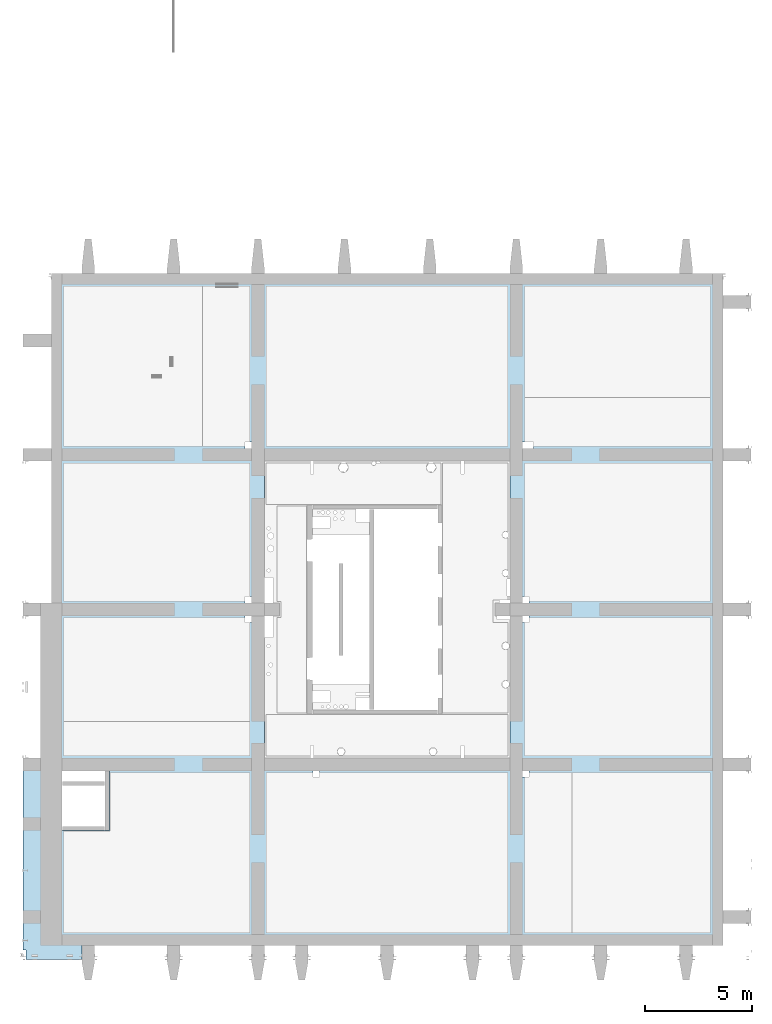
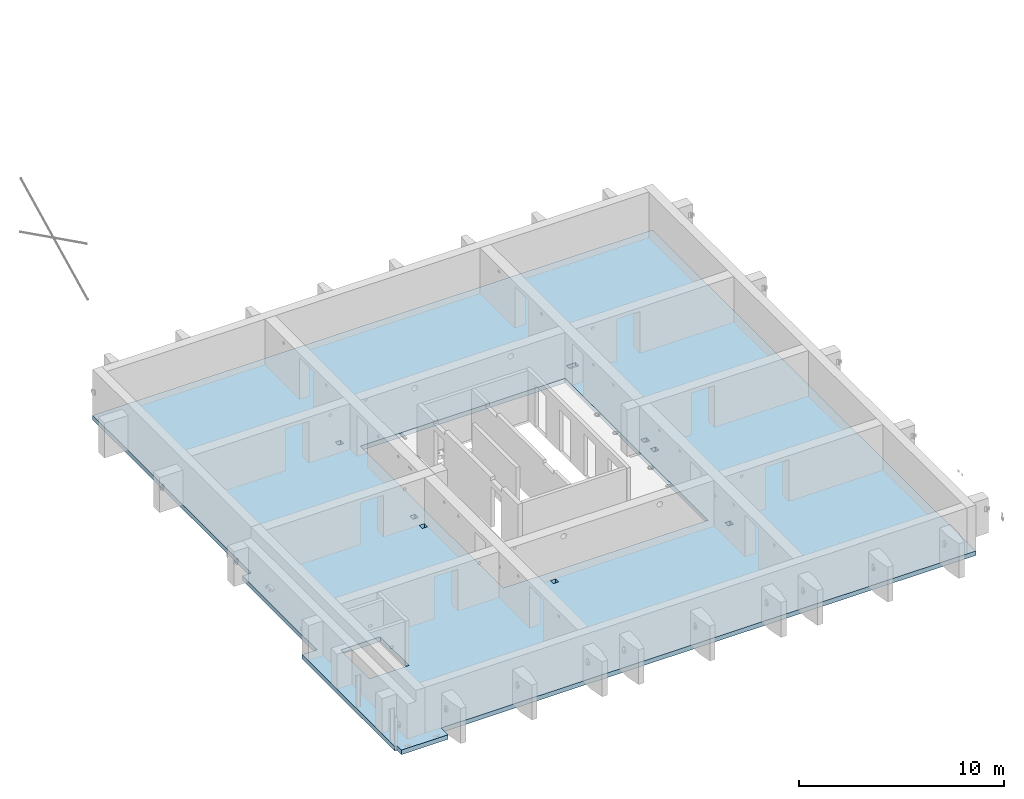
# One storey, part 21 of 22: 1 slab.
"""IFC2X3 building model written with IfcOpenShell, lengths in millimetres."""

import ifcopenshell
import ifcopenshell.guid

model = None  # the IFC model being written
_history = None  # IfcOwnerHistory: only IFC2X3 demands one
_inside = {}  # id of a spatial element -> (the spatial element, [elements in it])
_under = {}  # id of a project, library or spatial element -> (it, [spatial elements below it])
_declared = {}  # id of a project -> (the project, [libraries it declares])
_typed = {}  # id of a type object -> (the type object, [elements of that type])
_made_of = {}  # id of a material, layer set ... -> (it, [elements and type objects made of it])


def new_model(schema):
    """Start an empty IFC model of exactly this schema.

    Asked for "IFC4X3", IfcOpenShell would pick the latest addendum, in which some entities
    have other attributes; the version numbers below select the first issue.
    IFC2X3 requires an IfcOwnerHistory on every rooted entity: one is made here for all.
    """
    global model, _history
    if schema == "IFC4X3":
        model = ifcopenshell.file(schema_version=(4, 3, 0, 0))
    else:
        model = ifcopenshell.file(schema=schema)
    _inside.clear()
    _under.clear()
    _declared.clear()
    _typed.clear()
    _made_of.clear()
    _history = None
    if model.schema == "IFC2X3":
        org = make("IfcOrganization", Name="unknown")
        user = make(
            "IfcPersonAndOrganization",
            ThePerson=make("IfcPerson", FamilyName="unknown"),
            TheOrganization=org,
        )
        app = make(
            "IfcApplication",
            ApplicationDeveloper=org,
            Version="unknown",
            ApplicationFullName="unknown",
            ApplicationIdentifier="unknown",
        )
        _history = make(
            "IfcOwnerHistory",
            OwningUser=user,
            OwningApplication=app,
            ChangeAction="ADDED",
            CreationDate=0,
        )
    return model


def make(cls, **values):
    """One entity of the class cls with the attributes given. An attribute that is None is left unset."""
    return model.create_entity(
        cls, **{name: value for name, value in values.items() if value is not None}
    )


def entity(cls, *values):
    """Any entity or typed value of the class cls, its attributes in the order of the schema. None: left unset."""
    e = model.create_entity(cls)
    for i, value in enumerate(values):
        if value is not None:
            e[i] = value
    return e


def rooted(cls, **values):
    """An entity with a GlobalId (a new one), such as an element, a storey or a relation."""
    return make(cls, GlobalId=ifcopenshell.guid.new(), OwnerHistory=_history, **values)


def si_unit(unit_type, name, prefix=None):
    """IfcSIUnit, for example si_unit("LENGTHUNIT", "METRE", prefix="MILLI")."""
    return make("IfcSIUnit", UnitType=unit_type, Prefix=prefix, Name=name)


def converted_unit(unit_type, name, factor, base, dimensions=None, offset=None):
    """IfcConversionBasedUnit, such as the inch: factor (a typed value) times the base unit."""
    return make(
        "IfcConversionBasedUnit"
        if offset is None
        else "IfcConversionBasedUnitWithOffset",
        ConversionOffset=offset,
        Dimensions=None
        if dimensions is None
        else entity("IfcDimensionalExponents", *dimensions),
        UnitType=unit_type,
        Name=name,
        ConversionFactor=make(
            "IfcMeasureWithUnit", ValueComponent=factor, UnitComponent=base
        ),
    )


def derived_unit(unit_type, elements):
    """IfcDerivedUnit: a product of units, each with its exponent."""
    return make(
        "IfcDerivedUnit",
        Elements=[
            make("IfcDerivedUnitElement", Unit=unit, Exponent=power)
            for unit, power in elements
        ],
        UnitType=unit_type,
    )


def assignment(units):
    """IfcUnitAssignment: the units of a project."""
    return None if units is None else make("IfcUnitAssignment", Units=units)


def point(xyz):
    """IfcCartesianPoint."""
    return None if xyz is None else make("IfcCartesianPoint", Coordinates=xyz)


def direction(xyz):
    """IfcDirection."""
    return None if xyz is None else make("IfcDirection", DirectionRatios=xyz)


def frame(location, z_axis=None, x_axis=None):
    """IfcAxis2Placement3D, a coordinate frame: its origin and axes. An axis left out is left unset."""
    return make(
        "IfcAxis2Placement3D",
        Location=point(location),
        Axis=direction(z_axis),
        RefDirection=direction(x_axis),
    )


def frame_2d(location, x_axis=None):
    """IfcAxis2Placement2D, a coordinate frame in the plane: its origin and x axis."""
    return make(
        "IfcAxis2Placement2D", Location=point(location), RefDirection=direction(x_axis)
    )


def origin():
    """The frame at (0, 0, 0) with its axes left unset."""
    return frame((0.0, 0.0, 0.0))


def origin_2d_with_axis():
    """The frame at (0, 0) in the plane with the x axis (1, 0) written out."""
    return frame_2d((0.0, 0.0), x_axis=(1.0, 0.0))


def place(relative_to, where):
    """IfcLocalPlacement: puts the frame where relative to a parent placement (None: the world)."""
    return make(
        "IfcLocalPlacement", PlacementRelTo=relative_to, RelativePlacement=where
    )


def context(
    kind, dimensions, precision=None, world=None, true_north=None, identifier=None
):
    """IfcGeometricRepresentationContext, for example the 3D "Model" context."""
    return make(
        "IfcGeometricRepresentationContext",
        ContextIdentifier=identifier,
        ContextType=kind,
        CoordinateSpaceDimension=dimensions,
        Precision=precision,
        WorldCoordinateSystem=world,
        TrueNorth=true_north,
    )


def subcontext(parent, identifier, kind, view, scale=None):
    """IfcGeometricRepresentationSubContext, for example "Body" below "Model"."""
    return make(
        "IfcGeometricRepresentationSubContext",
        ContextIdentifier=identifier,
        ContextType=kind,
        ParentContext=parent,
        TargetScale=scale,
        TargetView=view,
    )


def project(units=None, contexts=None):
    """IfcProject with its units and contexts."""
    return rooted(
        "IfcProject",
        Name="project",
        RepresentationContexts=contexts,
        UnitsInContext=assignment(units),
    )


def spatial(cls, under=None, at=None, **own):
    """A site, building, storey or space (cls), placed at a placement, below another one or the project."""
    s = rooted(cls, ObjectPlacement=at, **own)
    if under is not None:
        _under.setdefault(under.id(), (under, []))[1].append(s)
    return s


def profile(cls, at=None, kind="AREA", **sizes):
    """A parametric profile (cls). Its sizes go by their IFC names, for example OverallWidth=200.0."""
    return make(cls, ProfileType=kind, Position=at, **sizes)


def rectangle(**sizes):
    """IfcRectangleProfileDef."""
    return profile("IfcRectangleProfileDef", **sizes)


def extrude(swept, where, along, depth):
    """IfcExtrudedAreaSolid: the profile swept, set in the frame where, extruded along a direction by depth."""
    return make(
        "IfcExtrudedAreaSolid",
        SweptArea=swept,
        Position=where,
        ExtrudedDirection=direction(along),
        Depth=depth,
    )


def faces_of(points, faces, orient=None, outer=None):
    """IfcFace entities. A face is a list of loops; a loop is a list of indices into points, from 0.

    orient and outer hold one flag for each loop. By default every Orientation is true, the
    first loop of a face is its IfcFaceOuterBound and the others are IfcFaceBound.
    """
    made = []
    for i, loops in enumerate(faces):
        bounds = []
        for j, loop in enumerate(loops):
            is_outer = j == 0 if outer is None else outer[i][j]
            bounds.append(
                make(
                    "IfcFaceOuterBound" if is_outer else "IfcFaceBound",
                    Bound=make("IfcPolyLoop", Polygon=[points[k] for k in loop]),
                    Orientation=True if orient is None else orient[i][j],
                )
            )
        made.append(make("IfcFace", Bounds=bounds))
    return made


def faceted_brep(points, faces, orient=None, outer=None, voids=None):
    """IfcFacetedBrep: a solid bounded by flat faces; with voids (closed shells), ...WithVoids."""
    shared = [point(p) for p in points]
    hull = make("IfcClosedShell", CfsFaces=faces_of(shared, faces, orient, outer))
    if voids is None:
        return make("IfcFacetedBrep", Outer=hull)
    return make(
        "IfcFacetedBrepWithVoids",
        Outer=hull,
        Voids=[
            make(cls, CfsFaces=faces_of(shared, fs, o, b)) for cls, fs, o, b in voids
        ],
    )


def shape(context_of_items, identifier, shape_type, items):
    """IfcShapeRepresentation: the items that make up one representation, for example the "Body"."""
    return make(
        "IfcShapeRepresentation",
        ContextOfItems=context_of_items,
        RepresentationIdentifier=identifier,
        RepresentationType=shape_type,
        Items=items,
    )


def material(Name=None, Category=None):
    """IfcMaterial."""
    return make("IfcMaterial", Name=Name, Category=Category)


def made_of(thing, what):
    """Note that an element or type object is made of a material, layer set ...; save() writes the relation."""
    if what is not None:
        _made_of.setdefault(what.id(), (what, []))[1].append(thing)
    return thing


def element(
    cls,
    number,
    at=None,
    inside=None,
    cuts=None,
    type_object=None,
    material=None,
    context=None,
    identifier="Body",
    shape_type=None,
    held_by="IfcProductDefinitionShape",
    body=None,
    shapes=None,
    **own,
):
    """One element of the class cls, such as IfcWall. Its Tag is "e" and its number.

    at: its placement. inside: the storey or other place that contains it. cuts: it is an
    opening in that element (IfcRelVoidsElement). A single representation is given by context,
    identifier, shape_type and body (its items); several are given by shapes. held_by: the class
    of the entity that holds the representations. save() writes the other relations.
    """
    e = rooted(cls, Tag="e%d" % number, ObjectPlacement=at, **own)
    if body is not None:
        shapes = [shape(context, identifier, shape_type, body)]
    if shapes is not None:
        e.Representation = make(held_by, Representations=shapes)
    if inside is not None:
        _inside.setdefault(inside.id(), (inside, []))[1].append(e)
    if cuts is not None:
        rooted(
            "IfcRelVoidsElement", RelatingBuildingElement=cuts, RelatedOpeningElement=e
        )
    if type_object is not None:
        _typed.setdefault(type_object.id(), (type_object, []))[1].append(e)
    return made_of(e, material)


def aggregate(whole, parts):
    """IfcRelAggregates: a whole, such as a stair, and the parts it consists of."""
    return rooted("IfcRelAggregates", RelatingObject=whole, RelatedObjects=parts)


def save(model, path):
    """Write the relations noted so far, then the file.

    IfcRelAggregates (storeys below a building ...), IfcRelContainedInSpatialStructure (elements
    in a storey), IfcRelDefinesByType, IfcRelAssociatesMaterial and IfcRelDeclares: one each for
    every whole, place, type object, material and project.
    """
    for whole, parts in _under.values():
        aggregate(whole, parts)
    for where, things in _inside.values():
        rooted(
            "IfcRelContainedInSpatialStructure",
            RelatedElements=things,
            RelatingStructure=where,
        )
    for kind, things in _typed.values():
        rooted("IfcRelDefinesByType", RelatedObjects=things, RelatingType=kind)
    for what, things in _made_of.values():
        rooted("IfcRelAssociatesMaterial", RelatedObjects=things, RelatingMaterial=what)
    for by, libraries in _declared.values():
        rooted("IfcRelDeclares", RelatingContext=by, RelatedDefinitions=libraries)
    model.write(path)


model = new_model("IFC2X3")

# Units and contexts
model_context = context("Model", 3, precision=0.01, world=origin(), true_north=direction((6.12303176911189e-17, 1.0)))
body_context = subcontext(model_context, "Body", "Model", "MODEL_VIEW")
ifc_project = project(units=[si_unit("LENGTHUNIT", "METRE", prefix="MILLI"), si_unit("AREAUNIT", "SQUARE_METRE"), si_unit("VOLUMEUNIT", "CUBIC_METRE"), converted_unit("PLANEANGLEUNIT", "DEGREE", entity("IfcRatioMeasure", 0.0174532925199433), si_unit("PLANEANGLEUNIT", "RADIAN"), dimensions=[0, 0, 0, 0, 0, 0, 0]), si_unit("MASSUNIT", "GRAM", prefix="KILO"), derived_unit("MASSDENSITYUNIT", [(si_unit("MASSUNIT", "GRAM", prefix="KILO"), 1), (si_unit("LENGTHUNIT", "METRE"), -3)]), si_unit("TIMEUNIT", "SECOND"), si_unit("FREQUENCYUNIT", "HERTZ"), si_unit("THERMODYNAMICTEMPERATUREUNIT", "DEGREE_CELSIUS"), derived_unit("THERMALTRANSMITTANCEUNIT", [(si_unit("MASSUNIT", "GRAM", prefix="KILO"), 1), (si_unit("THERMODYNAMICTEMPERATUREUNIT", "KELVIN"), -1), (si_unit("TIMEUNIT", "SECOND"), -3)]), derived_unit("VOLUMETRICFLOWRATEUNIT", [(si_unit("LENGTHUNIT", "METRE"), 3), (si_unit("TIMEUNIT", "SECOND"), -1)]), si_unit("ELECTRICCURRENTUNIT", "AMPERE"), si_unit("ELECTRICVOLTAGEUNIT", "VOLT"), si_unit("POWERUNIT", "WATT"), si_unit("FORCEUNIT", "NEWTON", prefix="KILO"), si_unit("ILLUMINANCEUNIT", "LUX"), si_unit("LUMINOUSFLUXUNIT", "LUMEN"), si_unit("LUMINOUSINTENSITYUNIT", "CANDELA"), derived_unit("USERDEFINED", [(si_unit("MASSUNIT", "GRAM", prefix="KILO"), -1), (si_unit("LENGTHUNIT", "METRE"), -2), (si_unit("TIMEUNIT", "SECOND"), 3), (si_unit("LUMINOUSFLUXUNIT", "LUMEN"), 1)]), derived_unit("LINEARVELOCITYUNIT", [(si_unit("LENGTHUNIT", "METRE"), 1), (si_unit("TIMEUNIT", "SECOND"), -1)]), si_unit("PRESSUREUNIT", "PASCAL"), derived_unit("USERDEFINED", [(si_unit("LENGTHUNIT", "METRE"), -2), (si_unit("MASSUNIT", "GRAM", prefix="KILO"), 1), (si_unit("TIMEUNIT", "SECOND"), -2)])], contexts=[model_context])

# Site, building, storey
site_placement = place(None, origin())
site = spatial("IfcSite", under=ifc_project, at=site_placement, Name="Default", CompositionType="ELEMENT")
building_placement = place(site_placement, origin())
building = spatial("IfcBuilding", under=site, at=building_placement, Name="niet gebruiken", CompositionType="ELEMENT")
storey_placement = place(building_placement, frame((0.0, 0.0, 15000.0)))
storey = spatial("IfcBuildingStorey", under=building, at=storey_placement, Name="04 vierde verdieping", CompositionType="ELEMENT", Elevation=15000.0)

# Slab
ifc_material = material(Name="NLRS_f2_beton ihwg")
slab_placement = place(storey_placement, origin())
element("IfcSlab", 1, at=slab_placement, inside=storey, material=ifc_material, Name="Floor:NLRS_23.21_FL_beton breedplaat d=70/270_gen", ObjectType="Floor:NLRS_23.21_FL_beton breedplaat d=70/270_gen", PredefinedType="FLOOR", context=body_context, shape_type="SolidModel", body=[
    extrude(rectangle(XDim=269.999999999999, YDim=1200.0, at=origin_2d_with_axis()), frame((147800.0, 30485.0, -260.0), z_axis=(0.0, 0.0, 1.0), x_axis=(0.0, -1.0, 0.0)), (0.0, 0.0, 1.0), 100.000000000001),
    extrude(rectangle(XDim=270.000000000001, YDim=1200.0, at=frame_2d((-5.40012479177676e-13, 0.0), x_axis=(1.0, 0.0))), frame((147800.0, 4515.0, -260.0), z_axis=(0.0, 0.0, 1.0), x_axis=(0.0, -1.0, 0.0)), (0.0, 0.0, 1.0), 100.000000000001),
    faceted_brep([(136080.0, 25130.0, -360.0), (147420.0, 25130.0, -360.0), (147420.0, 32650.0, -360.0), (136080.0, 32650.0, -360.0), (126600.0, 2350.0, -360.0), (135320.0, 2350.0, -360.0), (135320.0, 9870.0, -360.0), (128760.0, 9870.0, -360.0), (128760.0, 7130.0, -360.0), (126600.0, 7130.0, -360.0), (157480.0, 1770.0, -360.0), (156980.0, 1770.0, -360.0), (127450.0, 1770.0, -360.0), (127450.0, 1114.0, -360.0), (124830.0, 1114.0, -360.0), (124830.0, 1550.0, -360.0), (124700.0, 1550.0, -360.0), (124700.0, 2800.0, -360.0), (124700.0, 3400.0, -360.0), (124700.0, 7150.0, -360.0), (124700.0, 7750.0, -360.0), (124700.0, 9950.0, -360.0), (124700.0, 10550.0, -360.0), (125520.0, 10550.0, -360.0), (125520.0, 17800.0, -360.0), (126020.0, 17800.0, -360.0), (126020.0, 33230.0, -360.0), (126520.0, 33230.0, -360.0), (156980.0, 33230.0, -360.0), (157480.0, 33230.0, -360.0), (128740.0, 9950.0, -360.0), (126520.0, 9950.0, -360.0), (126520.0, 7150.0, -360.0), (128740.0, 7150.0, -360.0), (147500.0, 24450.0, -360.0), (136000.0, 24450.0, -360.0), (136000.0, 17800.0, -360.0), (136000.0, 17200.0, -360.0), (136000.0, 10550.0, -360.0), (147500.0, 10550.0, -360.0), (147500.0, 17200.0, -360.0), (147500.0, 17800.0, -360.0), (148100.0, 18100.0, -360.0), (148100.0, 17800.0, -360.0), (148400.0, 17800.0, -360.0), (148400.0, 17880.0, -360.0), (156900.0, 17880.0, -360.0), (156900.0, 24370.0, -360.0), (148180.0, 24370.0, -360.0), (148180.0, 18100.0, -360.0), (138585.0, 9950.0, -360.0), (138285.0, 9950.0, -360.0), (138285.0, 9870.0, -360.0), (136080.0, 9870.0, -360.0), (136080.0, 2350.0, -360.0), (147420.0, 2350.0, -360.0), (147420.0, 9870.0, -360.0), (138585.0, 9870.0, -360.0), (148400.0, 9950.0, -360.0), (148100.0, 9950.0, -360.0), (148100.0, 9650.0, -360.0), (148180.0, 9650.0, -360.0), (148180.0, 2350.0, -360.0), (150400.0, 2350.0, -360.0), (156900.0, 2350.0, -360.0), (156900.0, 9870.0, -360.0), (150400.0, 9870.0, -360.0), (148400.0, 9870.0, -360.0), (135400.0, 25050.0, -360.0), (135400.0, 25350.0, -360.0), (135320.0, 25350.0, -360.0), (135320.0, 32650.0, -360.0), (133100.0, 32650.0, -360.0), (126600.0, 32650.0, -360.0), (126600.0, 25130.0, -360.0), (133100.0, 25130.0, -360.0), (135100.0, 25130.0, -360.0), (135100.0, 25050.0, -360.0), (135400.0, 17800.0, -360.0), (135400.0, 18100.0, -360.0), (135320.0, 18100.0, -360.0), (135320.0, 24370.0, -360.0), (126600.0, 24370.0, -360.0), (126600.0, 17880.0, -360.0), (135100.0, 17880.0, -360.0), (135100.0, 17800.0, -360.0), (135400.0, 16900.0, -360.0), (135400.0, 17200.0, -360.0), (135100.0, 17200.0, -360.0), (135100.0, 17120.0, -360.0), (126600.0, 17120.0, -360.0), (126600.0, 12266.0, -360.0), (126600.0, 10630.0, -360.0), (135320.0, 10630.0, -360.0), (135320.0, 12266.0, -360.0), (135320.0, 16900.0, -360.0), (148400.0, 17200.0, -360.0), (148100.0, 17200.0, -360.0), (148100.0, 16900.0, -360.0), (148180.0, 16900.0, -360.0), (148180.0, 10630.0, -360.0), (156900.0, 10630.0, -360.0), (156900.0, 17120.0, -360.0), (148400.0, 17120.0, -360.0), (148100.0, 25050.0, -360.0), (148600.0, 25050.0, -360.0), (148600.0, 25130.0, -360.0), (156900.0, 25130.0, -360.0), (156900.0, 27440.0, -360.0), (156900.0, 32650.0, -360.0), (148180.0, 32650.0, -360.0), (148180.0, 27440.0, -360.0), (148180.0, 25350.0, -360.0), (148100.0, 25350.0, -360.0), (148400.0, 9950.0, -90.0), (148400.0, 9650.0, -90.0), (148100.0, 9650.0, -90.0), (148100.0, 9950.0, -90.0), (148400.0, 17200.0, -90.0), (148400.0, 16900.0, -90.0), (148100.0, 16900.0, -90.0), (148100.0, 17200.0, -90.0), (148400.0, 18100.0, -90.0), (148400.0, 17800.0, -90.0), (148100.0, 17800.0, -90.0), (148100.0, 18100.0, -90.0), (127450.0, 1770.0, -90.0), (128050.0, 1770.0, -90.0), (131450.0, 1770.0, -90.0), (132050.0, 1770.0, -90.0), (135400.0, 1770.0, -90.0), (136000.0, 1770.0, -90.0), (137450.0, 1770.0, -90.0), (138050.0, 1770.0, -90.0), (141450.0, 1770.0, -90.0), (142050.0, 1770.0, -90.0), (145450.0, 1770.0, -90.0), (146050.0, 1770.0, -90.0), (147500.0, 1770.0, -90.0), (148100.0, 1770.0, -90.0), (151450.0, 1770.0, -90.0), (152050.0, 1770.0, -90.0), (155450.0, 1770.0, -90.0), (156050.0, 1770.0, -90.0), (156980.0, 1770.0, -90.0), (157480.0, 1770.0, -90.0), (157480.0, 2800.0, -90.0), (157480.0, 3400.0, -90.0), (157480.0, 9950.0, -90.0), (157480.0, 10550.0, -90.0), (157480.0, 17200.0, -90.0), (157480.0, 17800.0, -90.0), (157480.0, 24450.0, -90.0), (157480.0, 25050.0, -90.0), (157480.0, 31600.0, -90.0), (157480.0, 32200.0, -90.0), (157480.0, 33230.0, -90.0), (156980.0, 33230.0, -90.0), (156050.0, 33230.0, -90.0), (155450.0, 33230.0, -90.0), (152050.0, 33230.0, -90.0), (151450.0, 33230.0, -90.0), (148100.0, 33230.0, -90.0), (147500.0, 33230.0, -90.0), (144050.0, 33230.0, -90.0), (143450.0, 33230.0, -90.0), (140050.0, 33230.0, -90.0), (139450.0, 33230.0, -90.0), (136000.0, 33230.0, -90.0), (135400.0, 33230.0, -90.0), (132050.0, 33230.0, -90.0), (131450.0, 33230.0, -90.0), (128050.0, 33230.0, -90.0), (127450.0, 33230.0, -90.0), (126520.0, 33230.0, -90.0), (126020.0, 33230.0, -90.0), (126020.0, 30400.0, -90.0), (126020.0, 29800.0, -90.0), (126020.0, 25050.0, -90.0), (126020.0, 24450.0, -90.0), (126020.0, 17800.0, -90.0), (125520.0, 17800.0, -90.0), (125520.0, 17200.0, -90.0), (125520.0, 10550.0, -90.0), (124700.0, 10550.0, -90.0), (124700.0, 9950.0, -90.0), (124700.0, 7750.0, -90.0), (124700.0, 7150.0, -90.0), (124700.0, 3400.0, -90.0), (124700.0, 2800.0, -90.0), (124700.0, 1550.0, -90.0), (124830.0, 1550.0, -90.0), (124830.0, 1114.0, -90.0), (127450.0, 1114.0, -90.0), (126520.0, 9950.0, -90.0), (128740.0, 9950.0, -90.0), (128740.0, 7150.0, -90.0), (126520.0, 7150.0, -90.0), (138285.0, 9950.0, -90.0), (138585.0, 9950.0, -90.0), (138585.0, 9650.0, -90.0), (138285.0, 9650.0, -90.0), (136000.0, 24450.0, -90.0), (138150.0, 24450.0, -90.0), (138300.0, 24450.0, -90.0), (145200.02189507, 24450.0, -90.0), (145350.02189507, 24450.0, -90.0), (147500.0, 24450.0, -90.0), (147500.0, 23750.0, -90.0), (147500.0, 22734.0, -90.0), (147500.0, 18924.5, -90.0), (147500.0, 18124.5, -90.0), (147500.0, 17950.0, -90.0), (147500.0, 17800.0, -90.0), (147500.0, 17200.0, -90.0), (147500.0, 17045.0, -90.0), (147500.0, 12266.0, -90.0), (147500.0, 11250.0, -90.0), (147500.0, 10550.0, -90.0), (145350.0, 10550.0, -90.0), (145200.0, 10550.0, -90.0), (138300.0, 10550.0, -90.0), (138150.0, 10550.0, -90.0), (136000.0, 10550.0, -90.0), (136000.0, 11250.0, -90.0), (136000.0, 12266.0, -90.0), (136000.0, 16200.0, -90.0), (136000.0, 17200.0, -90.0), (136000.0, 17800.0, -90.0), (136000.0, 18990.0, -90.0), (136000.0, 22734.0, -90.0), (136000.0, 23750.0, -90.0), (135400.0, 25350.0, -90.0), (135400.0, 25050.0, -90.0), (135100.0, 25050.0, -90.0), (135100.0, 25350.0, -90.0), (135400.0, 18100.0, -90.0), (135400.0, 17800.0, -90.0), (135100.0, 17800.0, -90.0), (135100.0, 18100.0, -90.0), (135400.0, 17200.0, -90.0), (135400.0, 16900.0, -90.0), (135100.0, 16900.0, -90.0), (135100.0, 17200.0, -90.0), (148600.0, 25050.0, -90.0), (148100.0, 25050.0, -90.0), (148100.0, 25350.0, -90.0), (148600.0, 25350.0, -90.0), (147500.0, 24450.0, -330.0), (136000.0, 24450.0, -330.0), (136000.0, 10550.0, -330.0), (147500.0, 10550.0, -330.0), (135100.0, 25350.0, -290.0), (135320.0, 25350.0, -290.0), (135100.0, 25130.0, -290.0), (135100.0, 18100.0, -290.0), (135320.0, 18100.0, -290.0), (135100.0, 17880.0, -290.0), (138285.0, 9650.0, -290.0), (138285.0, 9870.0, -290.0), (138585.0, 9650.0, -290.0), (138585.0, 9870.0, -290.0), (148400.0, 9870.0, -290.0), (148400.0, 9650.0, -290.0), (148180.0, 9650.0, -290.0), (148400.0, 17120.0, -290.0), (148400.0, 16900.0, -290.0), (148180.0, 16900.0, -290.0), (148400.0, 18100.0, -290.0), (148400.0, 17880.0, -290.0), (148180.0, 18100.0, -290.0), (148600.0, 25350.0, -290.0), (148600.0, 25130.0, -290.0), (148180.0, 25350.0, -290.0), (135100.0, 16900.0, -290.0), (135100.0, 17120.0, -290.0), (135320.0, 16900.0, -290.0), (135320.0, 32650.0, -290.0), (133100.0, 25130.0, -290.0), (126600.0, 25130.0, -290.0), (126600.0, 32650.0, -290.0), (133100.0, 32650.0, -290.0), (156900.0, 32650.0, -290.0), (148180.0, 32650.0, -290.0), (156900.0, 25130.0, -290.0), (156900.0, 27440.0, -290.0), (148180.0, 27440.0, -290.0), (147420.0, 25130.0, -290.0), (136080.0, 25130.0, -290.0), (136080.0, 32650.0, -290.0), (147420.0, 32650.0, -290.0), (126600.0, 2350.0, -290.0), (135320.0, 2350.0, -290.0), (128760.0, 7130.0, -290.0), (126600.0, 7130.0, -290.0), (128760.0, 9870.0, -290.0), (135320.0, 9870.0, -290.0), (148180.0, 2350.0, -290.0), (150400.0, 2350.0, -290.0), (156900.0, 2350.0, -290.0), (156900.0, 9870.0, -290.0), (150400.0, 9870.0, -290.0), (136080.0, 9870.0, -290.0), (136080.0, 2350.0, -290.0), (147420.0, 2350.0, -290.0), (147420.0, 9870.0, -290.0), (135320.0, 10630.0, -290.0), (135320.0, 12266.0, -290.0), (126600.0, 10630.0, -290.0), (126600.0, 17120.0, -290.0), (126600.0, 12266.0, -290.0), (148180.0, 10630.0, -290.0), (156900.0, 10630.0, -290.0), (156900.0, 17120.0, -290.0), (156900.0, 17880.0, -290.0), (148180.0, 24370.0, -290.0), (156900.0, 24370.0, -290.0), (135320.0, 24370.0, -290.0), (126600.0, 17880.0, -290.0), (126600.0, 24370.0, -290.0)], [[[0, 1, 2, 3], [4, 5, 6, 7, 8, 9], [10, 11, 12, 13, 14, 15, 16, 17, 18, 19, 20, 21, 22, 23, 24, 25, 26, 27, 28, 29], [30, 31, 32, 33], [34, 35, 36, 37, 38, 39, 40, 41], [42, 43, 44, 45, 46, 47, 48, 49], [50, 51, 52, 53, 54, 55, 56, 57], [58, 59, 60, 61, 62, 63, 64, 65, 66, 67], [68, 69, 70, 71, 72, 73, 74, 75, 76, 77], [78, 79, 80, 81, 82, 83, 84, 85], [86, 87, 88, 89, 90, 91, 92, 93, 94, 95], [96, 97, 98, 99, 100, 101, 102, 103], [104, 105, 106, 107, 108, 109, 110, 111, 112, 113]], [[114, 115, 116, 117], [118, 119, 120, 121], [122, 123, 124, 125], [126, 127, 128, 129, 130, 131, 132, 133, 134, 135, 136, 137, 138, 139, 140, 141, 142, 143, 144, 145, 146, 147, 148, 149, 150, 151, 152, 153, 154, 155, 156, 157, 158, 159, 160, 161, 162, 163, 164, 165, 166, 167, 168, 169, 170, 171, 172, 173, 174, 175, 176, 177, 178, 179, 180, 181, 182, 183, 184, 185, 186, 187, 188, 189, 190, 191, 192, 193], [194, 195, 196, 197], [198, 199, 200, 201], [202, 203, 204, 205, 206, 207, 208, 209, 210, 211, 212, 213, 214, 215, 216, 217, 218, 219, 220, 221, 222, 223, 224, 225, 226, 227, 228, 229, 230, 231], [232, 233, 234, 235], [236, 237, 238, 239], [240, 241, 242, 243], [244, 245, 246, 247]], [[12, 11, 10, 145, 144, 143, 142, 141, 140, 139, 138, 137, 136, 135, 134, 133, 132, 131, 130, 129, 128, 127, 126]], [[22, 21, 20, 19, 18, 17, 16, 190, 189, 188, 187, 186, 185, 184]], [[29, 28, 27, 26, 175, 174, 173, 172, 171, 170, 169, 168, 167, 166, 165, 164, 163, 162, 161, 160, 159, 158, 157, 156]], [[10, 29, 156, 155, 154, 153, 152, 151, 150, 149, 148, 147, 146, 145]], [[35, 34, 248, 207, 206, 205, 204, 203, 202, 249]], [[38, 37, 36, 35, 249, 202, 231, 230, 229, 228, 227, 226, 225, 224, 223, 250]], [[39, 38, 250, 223, 222, 221, 220, 219, 218, 251]], [[34, 41, 40, 39, 251, 218, 217, 216, 215, 214, 213, 212, 211, 210, 209, 208, 207, 248]], [[31, 30, 195, 194]], [[32, 31, 194, 197]], [[33, 32, 197, 196]], [[30, 33, 196, 195]], [[232, 69, 68, 233]], [[69, 232, 235, 252, 253, 70]], [[234, 77, 76, 254, 252, 235]], [[233, 68, 77, 234]], [[236, 79, 78, 237]], [[79, 236, 239, 255, 256, 80]], [[238, 85, 84, 257, 255, 239]], [[237, 78, 85, 238]], [[198, 51, 50, 199]], [[51, 198, 201, 258, 259, 52]], [[201, 200, 260, 258]], [[199, 50, 57, 261, 260, 200]], [[114, 58, 67, 262, 263, 115]], [[58, 114, 117, 59]], [[59, 117, 116, 60]], [[60, 116, 115, 263, 264, 61]], [[118, 96, 103, 265, 266, 119]], [[96, 118, 121, 97]], [[97, 121, 120, 98]], [[98, 120, 119, 266, 267, 99]], [[44, 123, 122, 268, 269, 45]], [[125, 42, 49, 270, 268, 122]], [[42, 125, 124, 43]], [[123, 44, 43, 124]], [[244, 105, 104, 245]], [[105, 244, 247, 271, 272, 106]], [[246, 113, 112, 273, 271, 247]], [[245, 104, 113, 246]], [[240, 87, 86, 241]], [[87, 240, 243, 88]], [[88, 243, 242, 274, 275, 89]], [[241, 86, 95, 276, 274, 242]], [[23, 22, 184, 183]], [[26, 25, 180, 179, 178, 177, 176, 175]], [[277, 253, 252, 254, 278, 279, 280, 281]], [[282, 283, 110, 109]], [[277, 281, 280, 73, 72, 71]], [[277, 71, 70, 253]], [[74, 279, 278, 254, 76, 75]], [[282, 109, 108, 107, 284, 285]], [[110, 283, 286, 273, 112, 111]], [[287, 1, 0, 288]], [[289, 288, 0, 3]], [[290, 289, 3, 2]], [[287, 290, 2, 1]], [[291, 292, 5, 4]], [[293, 294, 9, 8]], [[295, 293, 8, 7]], [[294, 291, 4, 9]], [[295, 7, 6, 296]], [[5, 292, 296, 6]], [[62, 297, 298, 299, 64, 63]], [[297, 62, 61, 264]], [[65, 300, 301, 262, 67, 66]], [[302, 303, 54, 53]], [[302, 53, 52, 259]], [[304, 305, 56, 55]], [[303, 304, 55, 54]], [[306, 307, 276, 95, 94, 93]], [[308, 306, 93, 92]], [[309, 310, 308, 92, 91, 90]], [[299, 300, 65, 64]], [[284, 107, 106, 272]], [[311, 312, 101, 100]], [[311, 100, 99, 267]], [[102, 313, 265, 103]], [[312, 313, 102, 101]], [[314, 46, 45, 269]], [[48, 315, 270, 49]], [[316, 315, 48, 47]], [[314, 316, 47, 46]], [[280, 279, 74, 73]], [[256, 317, 81, 80]], [[318, 257, 84, 83]], [[319, 318, 83, 82]], [[317, 319, 82, 81]], [[275, 309, 90, 89]], [[24, 23, 183, 182, 181]], [[25, 24, 181, 180]], [[13, 12, 126, 193]], [[14, 13, 193, 192]], [[15, 14, 192, 191]], [[16, 15, 191, 190]], [[56, 305, 261, 57]], [[290, 287, 288, 289]], [[283, 282, 285, 284, 272, 271, 273, 286]], [[316, 314, 269, 268, 270, 315]], [[318, 319, 317, 256, 255, 257]], [[309, 275, 274, 276, 307, 306, 308, 310]], [[313, 312, 311, 267, 266, 265]], [[263, 262, 301, 300, 299, 298, 297, 264]], [[293, 295, 296, 292, 291, 294]], [[304, 303, 302, 259, 258, 260, 261, 305]]], outer=[[False, False, True, False, False, False, False, False, False, False, False, False, False], [False, False, False, True, False, False, False, False, False, False, False], [True], [True], [True], [True], [True], [True], [True], [True], [True], [True], [True], [True], [True], [True], [True], [True], [True], [True], [True], [True], [True], [True], [True], [True], [True], [True], [True], [True], [True], [True], [True], [True], [True], [True], [True], [True], [True], [True], [True], [True], [True], [True], [True], [True], [True], [True], [True], [True], [True], [True], [True], [True], [True], [True], [True], [True], [True], [True], [True], [True], [True], [True], [True], [True], [True], [True], [True], [True], [True], [True], [True], [True], [True], [True], [True], [True], [True], [True], [True], [True], [True], [True], [True], [True], [True], [True], [True], [True], [True], [True], [True], [True], [True], [True], [True], [True], [True], [True], [True], [True], [True], [True], [True], [True], [True]]),
])

save(model, "model.ifc")
